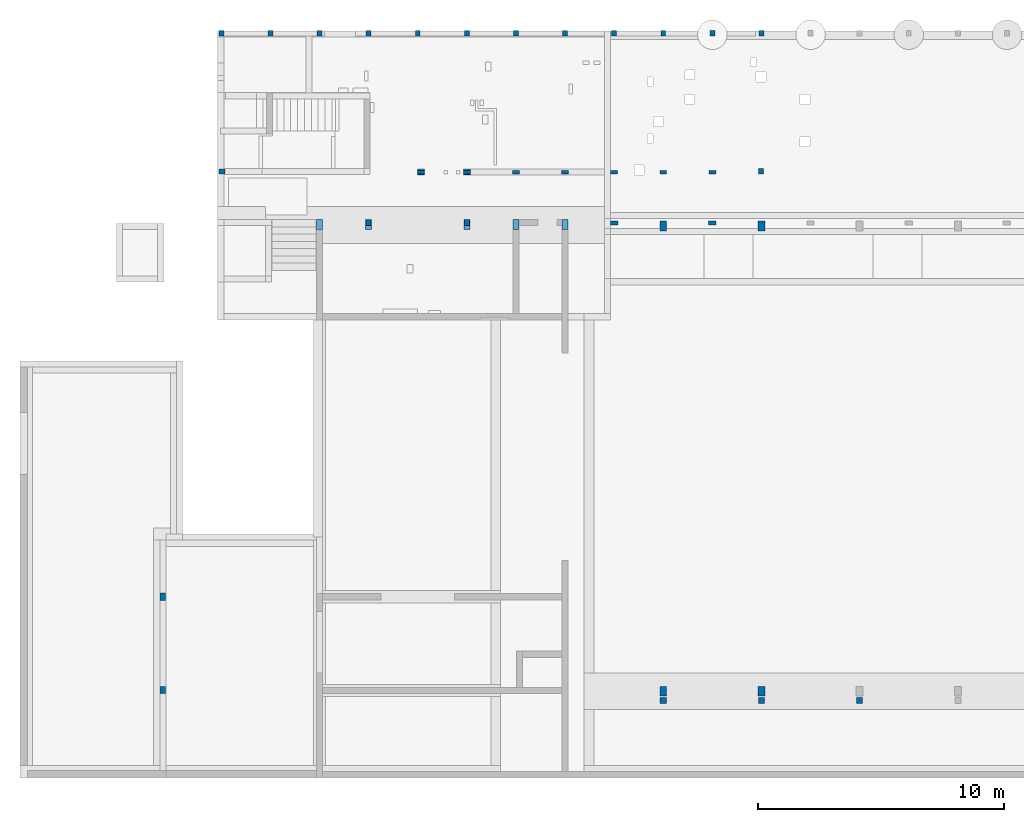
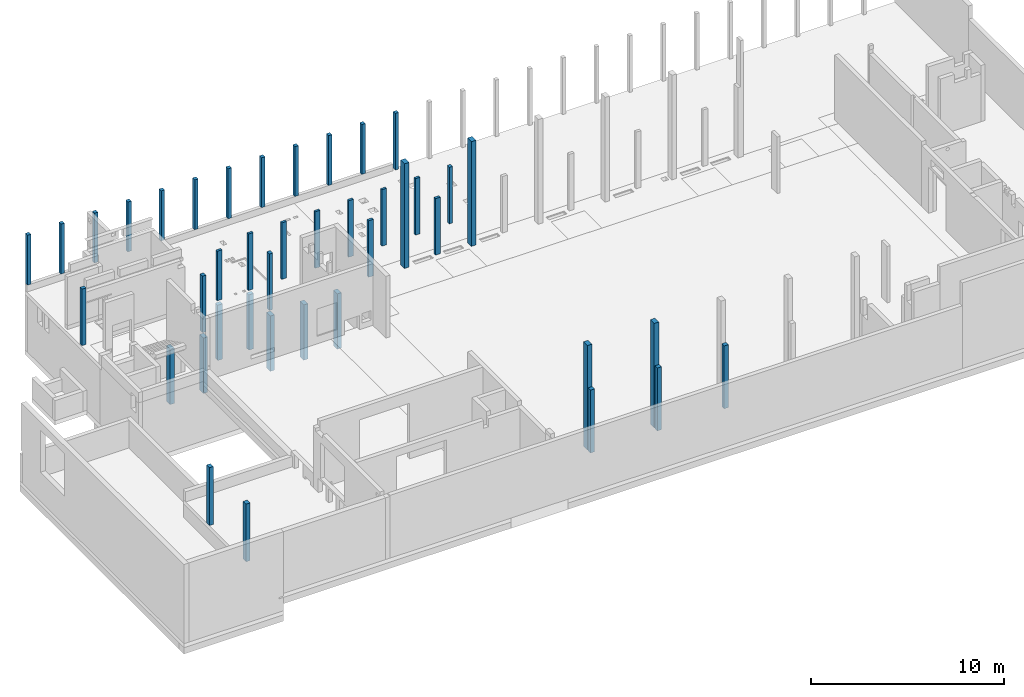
# One storey, part 1 of 12: 41 columns.
"""IFC2X3 building model written with IfcOpenShell, lengths in metres."""

from ifc_helpers import new_model, entity, si_unit, converted_unit, direction, frame, frame_2d, origin, origin_2d_with_axis, place, context, subcontext, project, spatial, rectangle, extrude, source, transform, mapped, material, type_object, type_shapes, element, save


model = new_model("IFC2X3")

# Units and contexts
model_context = context("Model", 3, precision=1e-05, world=frame((30.086303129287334, 2.687674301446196, 462.0)), true_north=direction((0.19008937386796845, 0.9817667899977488)))
body_context = subcontext(model_context, "Body", "Model", "MODEL_VIEW")
ifc_project = project(units=[si_unit("LENGTHUNIT", "METRE"), si_unit("AREAUNIT", "SQUARE_METRE"), converted_unit("PLANEANGLEUNIT", "DEGREE", entity("IfcPlaneAngleMeasure", 0.017453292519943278), si_unit("PLANEANGLEUNIT", "RADIAN"), dimensions=[0, 0, 0, 0, 0, 0, 0]), si_unit("VOLUMEUNIT", "CUBIC_METRE")], contexts=[model_context])

# Site, building, storey
site_placement = place(None, origin())
site = spatial("IfcSite", under=ifc_project, at=site_placement, Name="Default", CompositionType="ELEMENT")
building_placement = place(site_placement, origin())
building = spatial("IfcBuilding", under=site, at=building_placement, CompositionType="ELEMENT")
storey_placement = place(building_placement, frame((0.0, 0.0, -3.800000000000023)))
storey = spatial("IfcBuildingStorey", under=building, at=storey_placement, Name="FB_U01_OKFB", CompositionType="ELEMENT", Elevation=-3.800000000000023)

# Columns
ifc_material_1 = material(Name="WS_CONCRETE_REINFORCED")
column_type_1 = type_object("IfcColumnType", Name="WS_CCL_REC:CCL_REC_250x400", PredefinedType="COLUMN", material=ifc_material_1)
shared_shape_1 = source(origin(), body_context, "Body", "SweptSolid", [
    extrude(rectangle(XDim=0.25000000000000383, YDim=0.4, at=frame_2d((-4.336808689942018e-15, 0.0), x_axis=(1.0, 0.0))), frame((50.10533735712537, -1.3696871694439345, -3.8700000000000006), z_axis=(0.0, 0.0, 1.0), x_axis=(-1.0, 0.0, 0.0)), (0.0, 0.0, 1.0), 3.500000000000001),
])
type_shapes(column_type_1, [shared_shape_1])
column_1_placement = place(storey_placement, frame((0.0, 0.0, 3.800000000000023)))
element("IfcColumn", 1, at=column_1_placement, inside=storey, type_object=column_type_1, material=ifc_material_1, Name="WS_CCL_REC:CCL_REC_250x400", ObjectType="WS_CCL_REC:CCL_REC_250x400", context=body_context, shape_type="MappedRepresentation", body=[
    mapped(shared_shape_1, transform((0.0, 0.0, 0.0), scale=1.0)),
])
column_type_2 = type_object("IfcColumnType", Name="WS_CCL_REC:CCL_REC_250x400", PredefinedType="COLUMN", material=ifc_material_1)
shared_shape_2 = source(origin(), body_context, "Body", "SweptSolid", [
    extrude(rectangle(XDim=0.25000000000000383, YDim=0.4, at=frame_2d((4.336808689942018e-15, 0.0), x_axis=(1.0, 0.0))), frame((52.105337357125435, -1.3696871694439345, -3.8700000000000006), z_axis=(0.0, 0.0, 1.0), x_axis=(-1.0, 0.0, 0.0)), (0.0, 0.0, 1.0), 3.500000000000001),
])
type_shapes(column_type_2, [shared_shape_2])
column_2_placement = place(storey_placement, frame((0.0, 0.0, 3.800000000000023)))
element("IfcColumn", 2, at=column_2_placement, inside=storey, type_object=column_type_2, material=ifc_material_1, Name="WS_CCL_REC:CCL_REC_250x400", ObjectType="WS_CCL_REC:CCL_REC_250x400", context=body_context, shape_type="MappedRepresentation", body=[
    mapped(shared_shape_2, transform((0.0, 0.0, 0.0), scale=1.0)),
])
column_type_3 = type_object("IfcColumnType", Name="WS_CCL_REC:CCL_REC_250x400", PredefinedType="COLUMN", material=ifc_material_1)
shared_shape_3 = source(origin(), body_context, "Body", "SweptSolid", [
    extrude(rectangle(XDim=0.25000000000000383, YDim=0.4, at=frame_2d((-4.336808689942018e-15, 0.0), x_axis=(1.0, 0.0))), frame((56.1053373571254, -1.3696871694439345, -3.8700000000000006), z_axis=(0.0, 0.0, 1.0), x_axis=(-1.0, 0.0, 0.0)), (0.0, 0.0, 1.0), 3.500000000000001),
])
type_shapes(column_type_3, [shared_shape_3])
column_3_placement = place(storey_placement, frame((0.0, 0.0, 3.800000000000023)))
element("IfcColumn", 3, at=column_3_placement, inside=storey, type_object=column_type_3, material=ifc_material_1, Name="WS_CCL_REC:CCL_REC_250x400", ObjectType="WS_CCL_REC:CCL_REC_250x400", context=body_context, shape_type="MappedRepresentation", body=[
    mapped(shared_shape_3, transform((0.0, 0.0, 0.0), scale=1.0)),
])
column_type_4 = type_object("IfcColumnType", Name="WS_CCL_REC:CCL_REC_250x400", PredefinedType="COLUMN", material=ifc_material_1)
shared_shape_4 = source(origin(), body_context, "Body", "SweptSolid", [
    extrude(rectangle(XDim=0.25000000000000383, YDim=0.4, at=frame_2d((4.336808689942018e-15, 0.0), x_axis=(1.0, 0.0))), frame((60.105337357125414, -1.3696478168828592, -3.8700000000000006), z_axis=(0.0, 0.0, 1.0), x_axis=(-1.0, 0.0, 0.0)), (0.0, 0.0, 1.0), 3.500000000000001),
])
type_shapes(column_type_4, [shared_shape_4])
column_4_placement = place(storey_placement, frame((0.0, 0.0, 3.800000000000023)))
element("IfcColumn", 4, at=column_4_placement, inside=storey, type_object=column_type_4, material=ifc_material_1, Name="WS_CCL_REC:CCL_REC_250x400", ObjectType="WS_CCL_REC:CCL_REC_250x400", context=body_context, shape_type="MappedRepresentation", body=[
    mapped(shared_shape_4, transform((0.0, 0.0, 0.0), scale=1.0)),
])
column_type_5 = type_object("IfcColumnType", Name="WS_CCL_REC:CCL_REC_240x280", PredefinedType="COLUMN", material=ifc_material_1)
shared_shape_5 = source(origin(), body_context, "Body", "SweptSolid", [
    extrude(rectangle(XDim=0.23999999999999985, YDim=0.279999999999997, at=frame_2d((6.938893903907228e-17, 4.3298697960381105e-15), x_axis=(1.0, 0.0))), frame((54.24533927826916, 0.7603515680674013, -3.8700000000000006), z_axis=(0.0, 0.0, 1.0), x_axis=(0.0, 1.0, 0.0)), (0.0, 0.0, 1.0), 3.500000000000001),
])
type_shapes(column_type_5, [shared_shape_5])
column_5_placement = place(storey_placement, frame((0.0, 0.0, 3.800000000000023)))
element("IfcColumn", 5, at=column_5_placement, inside=storey, type_object=column_type_5, material=ifc_material_1, Name="WS_CCL_REC:CCL_REC_240x280", ObjectType="WS_CCL_REC:CCL_REC_240x280", context=body_context, shape_type="MappedRepresentation", body=[
    mapped(shared_shape_5, transform((0.0, 0.0, 0.0), scale=1.0)),
])
column_type_6 = type_object("IfcColumnType", Name="WS_CCL_REC:CCL_REC_240x280", PredefinedType="COLUMN", material=ifc_material_1)
shared_shape_6 = source(origin(), body_context, "Body", "SweptSolid", [
    extrude(rectangle(XDim=0.23999999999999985, YDim=0.279999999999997, at=frame_2d((6.938893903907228e-17, -4.3298697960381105e-15), x_axis=(1.0, 0.0))), frame((56.10533781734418, 0.7603515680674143, -3.8700000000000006), z_axis=(0.0, 0.0, 1.0), x_axis=(0.0, 1.0, 0.0)), (0.0, 0.0, 1.0), 3.500000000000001),
])
type_shapes(column_type_6, [shared_shape_6])
column_6_placement = place(storey_placement, frame((0.0, 0.0, 3.800000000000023)))
element("IfcColumn", 6, at=column_6_placement, inside=storey, type_object=column_type_6, material=ifc_material_1, Name="WS_CCL_REC:CCL_REC_240x280", ObjectType="WS_CCL_REC:CCL_REC_240x280", context=body_context, shape_type="MappedRepresentation", body=[
    mapped(shared_shape_6, transform((0.0, 0.0, 0.0), scale=1.0)),
])
column_type_7 = type_object("IfcColumnType", Name="WS_CCL_REC:CCL_REC_250x250", PredefinedType="COLUMN", material=ifc_material_1)
shared_shape_7 = source(origin(), body_context, "Body", "SweptSolid", [
    extrude(rectangle(XDim=0.25000000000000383, YDim=0.2499999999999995, at=frame_2d((-4.336808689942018e-15, -2.1718737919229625e-15), x_axis=(1.0, 0.0))), frame((72.10533735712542, -20.764559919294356, -0.12), z_axis=(0.0, 0.0, 1.0), x_axis=(-1.0, 0.0, 0.0)), (0.0, 0.0, 1.0), 3.969999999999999),
])
type_shapes(column_type_7, [shared_shape_7])
column_7_placement = place(storey_placement, frame((0.0, 0.0, 3.800000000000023)))
element("IfcColumn", 7, at=column_7_placement, inside=storey, type_object=column_type_7, material=ifc_material_1, Name="WS_CCL_REC:CCL_REC_250x250", ObjectType="WS_CCL_REC:CCL_REC_250x250", context=body_context, shape_type="MappedRepresentation", body=[
    mapped(shared_shape_7, transform((0.0, 0.0, 0.0), scale=1.0)),
])
column_type_8 = type_object("IfcColumnType", Name="WS_CCL_REC:CCL_REC_250x250", PredefinedType="COLUMN", material=ifc_material_1)
shared_shape_8 = source(origin(), body_context, "Body", "SweptSolid", [
    extrude(rectangle(XDim=0.25000000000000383, YDim=0.2499999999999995, at=frame_2d((-4.336808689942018e-15, 2.1718737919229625e-15), x_axis=(1.0, 0.0))), frame((68.10533735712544, -20.76455991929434, -0.12), z_axis=(0.0, 0.0, 1.0), x_axis=(-1.0, 0.0, 0.0)), (0.0, 0.0, 1.0), 3.969999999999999),
])
type_shapes(column_type_8, [shared_shape_8])
column_8_placement = place(storey_placement, frame((0.0, 0.0, 3.800000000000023)))
element("IfcColumn", 8, at=column_8_placement, inside=storey, type_object=column_type_8, material=ifc_material_1, Name="WS_CCL_REC:CCL_REC_250x250", ObjectType="WS_CCL_REC:CCL_REC_250x250", context=body_context, shape_type="MappedRepresentation", body=[
    mapped(shared_shape_8, transform((0.0, 0.0, 0.0), scale=1.0)),
])
column_type_9 = type_object("IfcColumnType", Name="WS_CCL_REC:CCL_REC_250x250", PredefinedType="COLUMN", material=ifc_material_1)
shared_shape_9 = source(origin(), body_context, "Body", "SweptSolid", [
    extrude(rectangle(XDim=0.25000000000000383, YDim=0.2499999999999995, at=frame_2d((4.336808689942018e-15, -2.1718737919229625e-15), x_axis=(1.0, 0.0))), frame((64.10533735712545, -20.76455991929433, -0.12), z_axis=(0.0, 0.0, 1.0), x_axis=(-1.0, 0.0, 0.0)), (0.0, 0.0, 1.0), 3.969999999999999),
])
type_shapes(column_type_9, [shared_shape_9])
column_9_placement = place(storey_placement, frame((0.0, 0.0, 3.800000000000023)))
element("IfcColumn", 9, at=column_9_placement, inside=storey, type_object=column_type_9, material=ifc_material_1, Name="WS_CCL_REC:CCL_REC_250x250", ObjectType="WS_CCL_REC:CCL_REC_250x250", context=body_context, shape_type="MappedRepresentation", body=[
    mapped(shared_shape_9, transform((0.0, 0.0, 0.0), scale=1.0)),
])
column_type_10 = type_object("IfcColumnType", Name="WS_CCL_REC:CCL_REC_240x300", PredefinedType="COLUMN", material=ifc_material_1)
shared_shape_10 = source(origin(), body_context, "Body", "SweptSolid", [
    extrude(rectangle(XDim=0.2399999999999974, YDim=0.29999999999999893, at=frame_2d((0.0, 1.0824674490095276e-15), x_axis=(1.0, 0.0))), frame((43.72130499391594, -16.534648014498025, -0.12), z_axis=(0.0, 0.0, 1.0), x_axis=(-1.0, 0.0, 0.0)), (0.0, 0.0, 1.0), 3.655),
])
type_shapes(column_type_10, [shared_shape_10])
column_10_placement = place(storey_placement, frame((0.0, 0.0, 3.800000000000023)))
element("IfcColumn", 10, at=column_10_placement, inside=storey, type_object=column_type_10, material=ifc_material_1, Name="WS_CCL_REC:CCL_REC_240x300", ObjectType="WS_CCL_REC:CCL_REC_240x300", context=body_context, shape_type="MappedRepresentation", body=[
    mapped(shared_shape_10, transform((0.0, 0.0, 0.0), scale=1.0)),
])
column_type_11 = type_object("IfcColumnType", Name="WS_CCL_REC:CCL_REC_240x300", PredefinedType="COLUMN", material=ifc_material_1)
shared_shape_11 = source(origin(), body_context, "Body", "SweptSolid", [
    extrude(rectangle(XDim=0.2399999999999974, YDim=0.3000000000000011, at=origin_2d_with_axis()), frame((43.72130525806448, -20.334648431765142, -0.12), z_axis=(0.0, 0.0, 1.0), x_axis=(-1.0, 0.0, 0.0)), (0.0, 0.0, 1.0), 3.655),
])
type_shapes(column_type_11, [shared_shape_11])
column_11_placement = place(storey_placement, frame((0.0, 0.0, 3.800000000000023)))
element("IfcColumn", 11, at=column_11_placement, inside=storey, type_object=column_type_11, material=ifc_material_1, Name="WS_CCL_REC:CCL_REC_240x300", ObjectType="WS_CCL_REC:CCL_REC_240x300", context=body_context, shape_type="MappedRepresentation", body=[
    mapped(shared_shape_11, transform((0.0, 0.0, 0.0), scale=1.0)),
])
column_type_12 = type_object("IfcColumnType", Name="WS_CCL_REC:CCL_REC_200x250", PredefinedType="COLUMN", material=ifc_material_1)
shared_shape_12 = source(origin(), body_context, "Body", "SweptSolid", [
    extrude(rectangle(XDim=0.19999999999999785, YDim=0.25, at=frame_2d((-4.3298697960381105e-15, 0.0), x_axis=(1.0, 0.0))), frame((56.10533921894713, -1.2946477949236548, -0.12), z_axis=(0.0, 0.0, 1.0), x_axis=(-1.0, 0.0, 0.0)), (0.0, 0.0, 1.0), 3.5749999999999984),
])
type_shapes(column_type_12, [shared_shape_12])
column_12_placement = place(storey_placement, frame((0.0, 0.0, 3.800000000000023)))
element("IfcColumn", 12, at=column_12_placement, inside=storey, type_object=column_type_12, material=ifc_material_1, Name="WS_CCL_REC:CCL_REC_200x250", ObjectType="WS_CCL_REC:CCL_REC_200x250", context=body_context, shape_type="MappedRepresentation", body=[
    mapped(shared_shape_12, transform((0.0, 0.0, 0.0), scale=1.0)),
])
column_type_13 = type_object("IfcColumnType", Name="WS_CCL_REC:CCL_REC_200x250", PredefinedType="COLUMN", material=ifc_material_1)
shared_shape_13 = source(origin(), body_context, "Body", "SweptSolid", [
    extrude(rectangle(XDim=0.19999999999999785, YDim=0.25, at=frame_2d((-4.3298697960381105e-15, 0.0), x_axis=(1.0, 0.0))), frame((52.105337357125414, -1.2946478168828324, -0.12), z_axis=(0.0, 0.0, 1.0), x_axis=(-1.0, 0.0, 0.0)), (0.0, 0.0, 1.0), 3.5749999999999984),
])
type_shapes(column_type_13, [shared_shape_13])
column_13_placement = place(storey_placement, frame((0.0, 0.0, 3.800000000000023)))
element("IfcColumn", 13, at=column_13_placement, inside=storey, type_object=column_type_13, material=ifc_material_1, Name="WS_CCL_REC:CCL_REC_200x250", ObjectType="WS_CCL_REC:CCL_REC_200x250", context=body_context, shape_type="MappedRepresentation", body=[
    mapped(shared_shape_13, transform((0.0, 0.0, 0.0), scale=1.0)),
])
ifc_material_2 = material(Name="WS_TIMBER_GLT_0°")
column_type_14 = type_object("IfcColumnType", Name="WS_TCL_GLT:TCL_GLT_200x220", PredefinedType="COLUMN", material=ifc_material_2)
shared_shape_14 = source(origin(), body_context, "Body", "SweptSolid", [
    extrude(rectangle(XDim=0.19999999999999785, YDim=0.2199999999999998, at=frame_2d((4.3298697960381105e-15, 0.0), x_axis=(1.0, 0.0))), frame((62.105339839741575, 6.420351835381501, 0.29999999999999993), z_axis=(0.0, 0.0, 1.0), x_axis=(-1.0, 0.0, 0.0)), (0.0, 0.0, 1.0), 3.154999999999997),
])
type_shapes(column_type_14, [shared_shape_14])
column_14_placement = place(storey_placement, frame((0.0, 0.0, 3.800000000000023)))
element("IfcColumn", 14, at=column_14_placement, inside=storey, type_object=column_type_14, material=ifc_material_2, Name="WS_TCL_GLT:TCL_GLT_200x220", ObjectType="WS_TCL_GLT:TCL_GLT_200x220", context=body_context, shape_type="MappedRepresentation", body=[
    mapped(shared_shape_14, transform((0.0, 0.0, 0.0), scale=1.0)),
])
column_type_15 = type_object("IfcColumnType", Name="WS_TCL_GLT:TCL_GLT_200x220", PredefinedType="COLUMN", material=ifc_material_2)
shared_shape_15 = source(origin(), body_context, "Body", "SweptSolid", [
    extrude(rectangle(XDim=0.19999999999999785, YDim=0.2199999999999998, at=frame_2d((4.3298697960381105e-15, 0.0), x_axis=(1.0, 0.0))), frame((60.105338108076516, 6.420351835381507, 0.29999999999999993), z_axis=(0.0, 0.0, 1.0), x_axis=(-1.0, 0.0, 0.0)), (0.0, 0.0, 1.0), 3.154999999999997),
])
type_shapes(column_type_15, [shared_shape_15])
column_15_placement = place(storey_placement, frame((0.0, 0.0, 3.800000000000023)))
element("IfcColumn", 15, at=column_15_placement, inside=storey, type_object=column_type_15, material=ifc_material_2, Name="WS_TCL_GLT:TCL_GLT_200x220", ObjectType="WS_TCL_GLT:TCL_GLT_200x220", context=body_context, shape_type="MappedRepresentation", body=[
    mapped(shared_shape_15, transform((0.0, 0.0, 0.0), scale=1.0)),
])
column_type_16 = type_object("IfcColumnType", Name="WS_TCL_GLT:TCL_GLT_200x220", PredefinedType="COLUMN", material=ifc_material_2)
shared_shape_16 = source(origin(), body_context, "Body", "SweptSolid", [
    extrude(rectangle(XDim=0.19999999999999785, YDim=0.2199999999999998, at=frame_2d((4.3298697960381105e-15, 0.0), x_axis=(1.0, 0.0))), frame((58.10534021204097, 6.420351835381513, 0.29999999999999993), z_axis=(0.0, 0.0, 1.0), x_axis=(-1.0, 0.0, 0.0)), (0.0, 0.0, 1.0), 3.154999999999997),
])
type_shapes(column_type_16, [shared_shape_16])
column_16_placement = place(storey_placement, frame((0.0, 0.0, 3.800000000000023)))
element("IfcColumn", 16, at=column_16_placement, inside=storey, type_object=column_type_16, material=ifc_material_2, Name="WS_TCL_GLT:TCL_GLT_200x220", ObjectType="WS_TCL_GLT:TCL_GLT_200x220", context=body_context, shape_type="MappedRepresentation", body=[
    mapped(shared_shape_16, transform((0.0, 0.0, 0.0), scale=1.0)),
])
column_type_17 = type_object("IfcColumnType", Name="WS_TCL_GLT:TCL_GLT_200x220", PredefinedType="COLUMN", material=ifc_material_2)
shared_shape_17 = source(origin(), body_context, "Body", "SweptSolid", [
    extrude(rectangle(XDim=0.19999999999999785, YDim=0.2199999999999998, at=frame_2d((4.3298697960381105e-15, 0.0), x_axis=(1.0, 0.0))), frame((56.1053381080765, 6.4203518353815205, 0.29999999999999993), z_axis=(0.0, 0.0, 1.0), x_axis=(-1.0, 0.0, 0.0)), (0.0, 0.0, 1.0), 3.154999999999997),
])
type_shapes(column_type_17, [shared_shape_17])
column_17_placement = place(storey_placement, frame((0.0, 0.0, 3.800000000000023)))
element("IfcColumn", 17, at=column_17_placement, inside=storey, type_object=column_type_17, material=ifc_material_2, Name="WS_TCL_GLT:TCL_GLT_200x220", ObjectType="WS_TCL_GLT:TCL_GLT_200x220", context=body_context, shape_type="MappedRepresentation", body=[
    mapped(shared_shape_17, transform((0.0, 0.0, 0.0), scale=1.0)),
])
column_type_18 = type_object("IfcColumnType", Name="WS_TCL_GLT:TCL_GLT_200x220", PredefinedType="COLUMN", material=ifc_material_2)
shared_shape_18 = source(origin(), body_context, "Body", "SweptSolid", [
    extrude(rectangle(XDim=0.19999999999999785, YDim=0.2199999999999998, at=frame_2d((-4.3298697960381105e-15, 0.0), x_axis=(1.0, 0.0))), frame((54.10534058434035, 6.420351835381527, 0.29999999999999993), z_axis=(0.0, 0.0, 1.0), x_axis=(-1.0, 0.0, 0.0)), (0.0, 0.0, 1.0), 3.154999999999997),
])
type_shapes(column_type_18, [shared_shape_18])
column_18_placement = place(storey_placement, frame((0.0, 0.0, 3.800000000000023)))
element("IfcColumn", 18, at=column_18_placement, inside=storey, type_object=column_type_18, material=ifc_material_2, Name="WS_TCL_GLT:TCL_GLT_200x220", ObjectType="WS_TCL_GLT:TCL_GLT_200x220", context=body_context, shape_type="MappedRepresentation", body=[
    mapped(shared_shape_18, transform((0.0, 0.0, 0.0), scale=1.0)),
])
column_type_19 = type_object("IfcColumnType", Name="WS_TCL_GLT:TCL_GLT_200x220", PredefinedType="COLUMN", material=ifc_material_2)
shared_shape_19 = source(origin(), body_context, "Body", "SweptSolid", [
    extrude(rectangle(XDim=0.19999999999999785, YDim=0.2199999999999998, at=frame_2d((4.3298697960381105e-15, 0.0), x_axis=(1.0, 0.0))), frame((52.10533810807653, 6.420351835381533, 0.29999999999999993), z_axis=(0.0, 0.0, 1.0), x_axis=(-1.0, 0.0, 0.0)), (0.0, 0.0, 1.0), 3.154999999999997),
])
type_shapes(column_type_19, [shared_shape_19])
column_19_placement = place(storey_placement, frame((0.0, 0.0, 3.800000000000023)))
element("IfcColumn", 19, at=column_19_placement, inside=storey, type_object=column_type_19, material=ifc_material_2, Name="WS_TCL_GLT:TCL_GLT_200x220", ObjectType="WS_TCL_GLT:TCL_GLT_200x220", context=body_context, shape_type="MappedRepresentation", body=[
    mapped(shared_shape_19, transform((0.0, 0.0, 0.0), scale=1.0)),
])
column_type_20 = type_object("IfcColumnType", Name="WS_TCL_GLT:TCL_GLT_200x220", PredefinedType="COLUMN", material=ifc_material_2)
shared_shape_20 = source(origin(), body_context, "Body", "SweptSolid", [
    extrude(rectangle(XDim=0.19999999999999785, YDim=0.2199999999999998, at=frame_2d((-4.3298697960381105e-15, 0.0), x_axis=(1.0, 0.0))), frame((50.105338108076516, 6.42035183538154, 0.29999999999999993), z_axis=(0.0, 0.0, 1.0), x_axis=(-1.0, 0.0, 0.0)), (0.0, 0.0, 1.0), 3.154999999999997),
])
type_shapes(column_type_20, [shared_shape_20])
column_20_placement = place(storey_placement, frame((0.0, 0.0, 3.800000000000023)))
element("IfcColumn", 20, at=column_20_placement, inside=storey, type_object=column_type_20, material=ifc_material_2, Name="WS_TCL_GLT:TCL_GLT_200x220", ObjectType="WS_TCL_GLT:TCL_GLT_200x220", context=body_context, shape_type="MappedRepresentation", body=[
    mapped(shared_shape_20, transform((0.0, 0.0, 0.0), scale=1.0)),
])
column_type_21 = type_object("IfcColumnType", Name="WS_TCL_GLT:TCL_GLT_200x220", PredefinedType="COLUMN", material=ifc_material_2)
shared_shape_21 = source(origin(), body_context, "Body", "SweptSolid", [
    extrude(rectangle(XDim=0.2199999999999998, YDim=0.19999999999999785, at=origin_2d_with_axis()), frame((48.10533975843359, 6.420351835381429, 0.29999999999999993), z_axis=(0.0, 0.0, 1.0), x_axis=(0.0, -1.0, 0.0)), (0.0, 0.0, 1.0), 3.1549999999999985),
])
type_shapes(column_type_21, [shared_shape_21])
column_21_placement = place(storey_placement, frame((0.0, 0.0, 3.800000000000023)))
element("IfcColumn", 21, at=column_21_placement, inside=storey, type_object=column_type_21, material=ifc_material_2, Name="WS_TCL_GLT:TCL_GLT_200x220", ObjectType="WS_TCL_GLT:TCL_GLT_200x220", context=body_context, shape_type="MappedRepresentation", body=[
    mapped(shared_shape_21, transform((0.0, 0.0, 0.0), scale=1.0)),
])
column_type_22 = type_object("IfcColumnType", Name="WS_TCL_GLT:TCL_GLT_200x220", PredefinedType="COLUMN", material=ifc_material_2)
shared_shape_22 = source(origin(), body_context, "Body", "SweptSolid", [
    extrude(rectangle(XDim=0.19999999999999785, YDim=0.2199999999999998, at=frame_2d((-4.3298697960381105e-15, 0.0), x_axis=(1.0, 0.0))), frame((46.10533996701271, 6.4203518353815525, 0.29999999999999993), z_axis=(0.0, 0.0, 1.0), x_axis=(-1.0, 0.0, 0.0)), (0.0, 0.0, 1.0), 3.154999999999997),
])
type_shapes(column_type_22, [shared_shape_22])
column_22_placement = place(storey_placement, frame((0.0, 0.0, 3.800000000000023)))
element("IfcColumn", 22, at=column_22_placement, inside=storey, type_object=column_type_22, material=ifc_material_2, Name="WS_TCL_GLT:TCL_GLT_200x220", ObjectType="WS_TCL_GLT:TCL_GLT_200x220", context=body_context, shape_type="MappedRepresentation", body=[
    mapped(shared_shape_22, transform((0.0, 0.0, 0.0), scale=1.0)),
])
ifc_material_3 = material(Name="WS_TIMBER_GLT_90°")
column_type_23 = type_object("IfcColumnType", Name="WS_TCL_GLT:TCL_GLT_140x280", PredefinedType="COLUMN", material=ifc_material_3)
shared_shape_23 = source(origin(), body_context, "Body", "SweptSolid", [
    extrude(rectangle(XDim=0.13999999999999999, YDim=0.279999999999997, at=frame_2d((6.938893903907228e-17, 4.3298697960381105e-15), x_axis=(1.0, 0.0))), frame((58.1053392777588, 0.7603515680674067, -0.12), z_axis=(0.0, 0.0, 1.0), x_axis=(0.0, -1.0, 0.0)), (0.0, 0.0, 1.0), 3.5749999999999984),
])
type_shapes(column_type_23, [shared_shape_23])
column_23_placement = place(storey_placement, frame((0.0, 0.0, 3.800000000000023)))
element("IfcColumn", 23, at=column_23_placement, inside=storey, type_object=column_type_23, material=ifc_material_3, Name="WS_TCL_GLT:TCL_GLT_140x280", ObjectType="WS_TCL_GLT:TCL_GLT_140x280", context=body_context, shape_type="MappedRepresentation", body=[
    mapped(shared_shape_23, transform((0.0, 0.0, 0.0), scale=1.0)),
])
column_type_24 = type_object("IfcColumnType", Name="WS_TCL_GLT:TCL_GLT_140x280", PredefinedType="COLUMN", material=ifc_material_3)
shared_shape_24 = source(origin(), body_context, "Body", "SweptSolid", [
    extrude(rectangle(XDim=0.14000000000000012, YDim=0.279999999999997, at=frame_2d((6.938893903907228e-17, 0.0), x_axis=(1.0, 0.0))), frame((56.10533717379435, 0.7603515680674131, -0.12), z_axis=(0.0, 0.0, 1.0), x_axis=(0.0, -1.0, 0.0)), (0.0, 0.0, 1.0), 3.5749999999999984),
])
type_shapes(column_type_24, [shared_shape_24])
column_24_placement = place(storey_placement, frame((0.0, 0.0, 3.800000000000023)))
element("IfcColumn", 24, at=column_24_placement, inside=storey, type_object=column_type_24, material=ifc_material_3, Name="WS_TCL_GLT:TCL_GLT_140x280", ObjectType="WS_TCL_GLT:TCL_GLT_140x280", context=body_context, shape_type="MappedRepresentation", body=[
    mapped(shared_shape_24, transform((0.0, 0.0, 0.0), scale=1.0)),
])
column_type_25 = type_object("IfcColumnType", Name="WS_TCL_GLT:TCL_GLT_140x280", PredefinedType="COLUMN", material=ifc_material_3)
shared_shape_25 = source(origin(), body_context, "Body", "SweptSolid", [
    extrude(rectangle(XDim=0.14000000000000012, YDim=0.279999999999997, at=frame_2d((6.938893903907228e-17, 0.0), x_axis=(1.0, 0.0))), frame((54.24533927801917, 0.7603515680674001, -0.12), z_axis=(0.0, 0.0, 1.0), x_axis=(0.0, -1.0, 0.0)), (0.0, 0.0, 1.0), 3.1349999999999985),
])
type_shapes(column_type_25, [shared_shape_25])
column_25_placement = place(storey_placement, frame((0.0, 0.0, 3.800000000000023)))
element("IfcColumn", 25, at=column_25_placement, inside=storey, type_object=column_type_25, material=ifc_material_3, Name="WS_TCL_GLT:TCL_GLT_140x280", ObjectType="WS_TCL_GLT:TCL_GLT_140x280", context=body_context, shape_type="MappedRepresentation", body=[
    mapped(shared_shape_25, transform((0.0, 0.0, 0.0), scale=1.0)),
])
column_type_26 = type_object("IfcColumnType", Name="WS_TCL_GLT:TCL_GLT_140x280", PredefinedType="COLUMN", material=ifc_material_3)
shared_shape_26 = source(origin(), body_context, "Body", "SweptSolid", [
    extrude(rectangle(XDim=0.14000000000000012, YDim=0.279999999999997, at=frame_2d((6.938893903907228e-17, 0.0), x_axis=(1.0, 0.0))), frame((62.10533890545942, 0.7603515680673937, -0.12), z_axis=(0.0, 0.0, 1.0), x_axis=(0.0, -1.0, 0.0)), (0.0, 0.0, 1.0), 3.5749999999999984),
])
type_shapes(column_type_26, [shared_shape_26])
column_26_placement = place(storey_placement, frame((0.0, 0.0, 3.800000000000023)))
element("IfcColumn", 26, at=column_26_placement, inside=storey, type_object=column_type_26, material=ifc_material_3, Name="WS_TCL_GLT:TCL_GLT_140x280", ObjectType="WS_TCL_GLT:TCL_GLT_140x280", context=body_context, shape_type="MappedRepresentation", body=[
    mapped(shared_shape_26, transform((0.0, 0.0, 0.0), scale=1.0)),
])
column_type_27 = type_object("IfcColumnType", Name="WS_TCL_GLT:TCL_GLT_140x280", PredefinedType="COLUMN", material=ifc_material_3)
shared_shape_27 = source(origin(), body_context, "Body", "SweptSolid", [
    extrude(rectangle(XDim=0.14000000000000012, YDim=0.279999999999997, at=frame_2d((6.938893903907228e-17, 0.0), x_axis=(1.0, 0.0))), frame((64.10533717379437, 0.7603515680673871, -0.12), z_axis=(0.0, 0.0, 1.0), x_axis=(0.0, -1.0, 0.0)), (0.0, 0.0, 1.0), 3.5749999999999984),
])
type_shapes(column_type_27, [shared_shape_27])
column_27_placement = place(storey_placement, frame((0.0, 0.0, 3.800000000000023)))
element("IfcColumn", 27, at=column_27_placement, inside=storey, type_object=column_type_27, material=ifc_material_3, Name="WS_TCL_GLT:TCL_GLT_140x280", ObjectType="WS_TCL_GLT:TCL_GLT_140x280", context=body_context, shape_type="MappedRepresentation", body=[
    mapped(shared_shape_27, transform((0.0, 0.0, 0.0), scale=1.0)),
])
column_type_28 = type_object("IfcColumnType", Name="WS_TCL_GLT:TCL_GLT_140x280", PredefinedType="COLUMN", material=ifc_material_3)
shared_shape_28 = source(origin(), body_context, "Body", "SweptSolid", [
    extrude(rectangle(XDim=0.14000000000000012, YDim=0.279999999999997, at=frame_2d((6.938893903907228e-17, 0.0), x_axis=(1.0, 0.0))), frame((66.10533853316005, 0.7603515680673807, -0.12), z_axis=(0.0, 0.0, 1.0), x_axis=(0.0, -1.0, 0.0)), (0.0, 0.0, 1.0), 3.5749999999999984),
])
type_shapes(column_type_28, [shared_shape_28])
column_28_placement = place(storey_placement, frame((0.0, 0.0, 3.800000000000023)))
element("IfcColumn", 28, at=column_28_placement, inside=storey, type_object=column_type_28, material=ifc_material_3, Name="WS_TCL_GLT:TCL_GLT_140x280", ObjectType="WS_TCL_GLT:TCL_GLT_140x280", context=body_context, shape_type="MappedRepresentation", body=[
    mapped(shared_shape_28, transform((0.0, 0.0, 0.0), scale=1.0)),
])
column_type_29 = type_object("IfcColumnType", Name="WS_TCL_GLT:TCL_GLT_200x220", PredefinedType="COLUMN", material=ifc_material_2)
shared_shape_29 = source(origin(), body_context, "Body", "SweptSolid", [
    extrude(rectangle(XDim=0.21999999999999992, YDim=0.19999999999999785, at=frame_2d((6.938893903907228e-17, 0.0), x_axis=(1.0, 0.0))), frame((68.09533735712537, 0.8003522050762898, -0.12), z_axis=(0.0, 0.0, 1.0), x_axis=(0.0, -1.0, 0.0)), (0.0, 0.0, 1.0), 3.5749999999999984),
])
type_shapes(column_type_29, [shared_shape_29])
column_29_placement = place(storey_placement, frame((0.0, 0.0, 3.800000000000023)))
element("IfcColumn", 29, at=column_29_placement, inside=storey, type_object=column_type_29, material=ifc_material_2, Name="WS_TCL_GLT:TCL_GLT_200x220", ObjectType="WS_TCL_GLT:TCL_GLT_200x220", context=body_context, shape_type="MappedRepresentation", body=[
    mapped(shared_shape_29, transform((0.0, 0.0, 0.0), scale=1.0)),
])
column_type_30 = type_object("IfcColumnType", Name="WS_TCL_GLT:TCL_GLT_280x400", PredefinedType="COLUMN", material=ifc_material_2)
shared_shape_30 = source(origin(), body_context, "Body", "SweptSolid", [
    extrude(rectangle(XDim=0.4, YDim=0.279999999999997, at=origin_2d_with_axis()), frame((68.10533919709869, -1.4346022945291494, -0.12), z_axis=(0.0, 0.0, 1.0), x_axis=(0.0, -1.0, 0.0)), (0.0, 0.0, 1.0), 6.62),
])
type_shapes(column_type_30, [shared_shape_30])
column_30_placement = place(storey_placement, frame((0.0, 0.0, 3.800000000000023)))
element("IfcColumn", 30, at=column_30_placement, inside=storey, type_object=column_type_30, material=ifc_material_2, Name="WS_TCL_GLT:TCL_GLT_280x400", ObjectType="WS_TCL_GLT:TCL_GLT_280x400", context=body_context, shape_type="MappedRepresentation", body=[
    mapped(shared_shape_30, transform((0.0, 0.0, 0.0), scale=1.0)),
])
column_type_31 = type_object("IfcColumnType", Name="WS_TCL_GLT:TCL_GLT_280x400", PredefinedType="COLUMN", material=ifc_material_2)
shared_shape_31 = source(origin(), body_context, "Body", "SweptSolid", [
    extrude(rectangle(XDim=0.4, YDim=0.279999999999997, at=origin_2d_with_axis()), frame((64.10533919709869, -1.4346022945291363, -0.12), z_axis=(0.0, 0.0, 1.0), x_axis=(0.0, -1.0, 0.0)), (0.0, 0.0, 1.0), 6.62),
])
type_shapes(column_type_31, [shared_shape_31])
column_31_placement = place(storey_placement, frame((0.0, 0.0, 3.800000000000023)))
element("IfcColumn", 31, at=column_31_placement, inside=storey, type_object=column_type_31, material=ifc_material_2, Name="WS_TCL_GLT:TCL_GLT_280x400", ObjectType="WS_TCL_GLT:TCL_GLT_280x400", context=body_context, shape_type="MappedRepresentation", body=[
    mapped(shared_shape_31, transform((0.0, 0.0, 0.0), scale=1.0)),
])
column_type_32 = type_object("IfcColumnType", Name="WS_TCL_GLT:TCL_GLT_280x400", PredefinedType="COLUMN", material=ifc_material_2)
shared_shape_32 = source(origin(), body_context, "Body", "SweptSolid", [
    extrude(rectangle(XDim=0.279999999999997, YDim=0.4, at=frame_2d((-4.3298697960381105e-15, -2.1649348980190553e-15), x_axis=(1.0, 0.0))), frame((68.10533919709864, -20.384651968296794, -0.12), z_axis=(0.0, 0.0, 1.0), x_axis=(-1.0, 0.0, 0.0)), (0.0, 0.0, 1.0), 6.62),
])
type_shapes(column_type_32, [shared_shape_32])
column_32_placement = place(storey_placement, frame((0.0, 0.0, 3.800000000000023)))
element("IfcColumn", 32, at=column_32_placement, inside=storey, type_object=column_type_32, material=ifc_material_2, Name="WS_TCL_GLT:TCL_GLT_280x400", ObjectType="WS_TCL_GLT:TCL_GLT_280x400", context=body_context, shape_type="MappedRepresentation", body=[
    mapped(shared_shape_32, transform((0.0, 0.0, 0.0), scale=1.0)),
])
column_type_33 = type_object("IfcColumnType", Name="WS_TCL_GLT:TCL_GLT_280x400", PredefinedType="COLUMN", material=ifc_material_2)
shared_shape_33 = source(origin(), body_context, "Body", "SweptSolid", [
    extrude(rectangle(XDim=0.279999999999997, YDim=0.4, at=frame_2d((4.3298697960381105e-15, 2.1649348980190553e-15), x_axis=(1.0, 0.0))), frame((64.10533919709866, -20.38465196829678, -0.12), z_axis=(0.0, 0.0, 1.0), x_axis=(-1.0, 0.0, 0.0)), (0.0, 0.0, 1.0), 6.62),
])
type_shapes(column_type_33, [shared_shape_33])
column_33_placement = place(storey_placement, frame((0.0, 0.0, 3.800000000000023)))
element("IfcColumn", 33, at=column_33_placement, inside=storey, type_object=column_type_33, material=ifc_material_2, Name="WS_TCL_GLT:TCL_GLT_280x400", ObjectType="WS_TCL_GLT:TCL_GLT_280x400", context=body_context, shape_type="MappedRepresentation", body=[
    mapped(shared_shape_33, transform((0.0, 0.0, 0.0), scale=1.0)),
])
column_type_34 = type_object("IfcColumnType", Name="WS_TCL_GLT:TCL_GLT_200x220", PredefinedType="COLUMN", material=ifc_material_2)
shared_shape_34 = source(origin(), body_context, "Body", "SweptSolid", [
    extrude(rectangle(XDim=0.19999999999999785, YDim=0.2199999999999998, at=frame_2d((4.3298697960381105e-15, 0.0), x_axis=(1.0, 0.0))), frame((64.1053385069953, 6.420351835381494, 0.29999999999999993), z_axis=(0.0, 0.0, 1.0), x_axis=(-1.0, 0.0, 0.0)), (0.0, 0.0, 1.0), 3.154999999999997),
])
type_shapes(column_type_34, [shared_shape_34])
column_34_placement = place(storey_placement, frame((0.0, 0.0, 3.800000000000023)))
element("IfcColumn", 34, at=column_34_placement, inside=storey, type_object=column_type_34, material=ifc_material_2, Name="WS_TCL_GLT:TCL_GLT_200x220", ObjectType="WS_TCL_GLT:TCL_GLT_200x220", context=body_context, shape_type="MappedRepresentation", body=[
    mapped(shared_shape_34, transform((0.0, 0.0, 0.0), scale=1.0)),
])
column_type_35 = type_object("IfcColumnType", Name="WS_TCL_GLT:TCL_GLT_200x220", PredefinedType="COLUMN", material=ifc_material_2)
shared_shape_35 = source(origin(), body_context, "Body", "SweptSolid", [
    extrude(rectangle(XDim=0.19999999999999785, YDim=0.2199999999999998, at=frame_2d((-4.3298697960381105e-15, 0.0), x_axis=(1.0, 0.0))), frame((68.10533850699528, 6.420351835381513, -0.12), z_axis=(0.0, 0.0, 1.0), x_axis=(-1.0, 0.0, 0.0)), (0.0, 0.0, 1.0), 3.5749999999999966),
])
type_shapes(column_type_35, [shared_shape_35])
column_35_placement = place(storey_placement, frame((0.0, 0.0, 3.800000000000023)))
element("IfcColumn", 35, at=column_35_placement, inside=storey, type_object=column_type_35, material=ifc_material_2, Name="WS_TCL_GLT:TCL_GLT_200x220", ObjectType="WS_TCL_GLT:TCL_GLT_200x220", context=body_context, shape_type="MappedRepresentation", body=[
    mapped(shared_shape_35, transform((0.0, 0.0, 0.0), scale=1.0)),
])
column_type_36 = type_object("IfcColumnType", Name="WS_TCL_GLT:TCL_GLT_200x220", PredefinedType="COLUMN", material=ifc_material_2)
shared_shape_36 = source(origin(), body_context, "Body", "SweptSolid", [
    extrude(rectangle(XDim=0.19999999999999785, YDim=0.2199999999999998, at=frame_2d((4.3298697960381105e-15, 0.0), x_axis=(1.0, 0.0))), frame((66.10533986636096, 6.4203518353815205, 0.29999999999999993), z_axis=(0.0, 0.0, 1.0), x_axis=(-1.0, 0.0, 0.0)), (0.0, 0.0, 1.0), 3.154999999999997),
])
type_shapes(column_type_36, [shared_shape_36])
column_36_placement = place(storey_placement, frame((0.0, 0.0, 3.800000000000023)))
element("IfcColumn", 36, at=column_36_placement, inside=storey, type_object=column_type_36, material=ifc_material_2, Name="WS_TCL_GLT:TCL_GLT_200x220", ObjectType="WS_TCL_GLT:TCL_GLT_200x220", context=body_context, shape_type="MappedRepresentation", body=[
    mapped(shared_shape_36, transform((0.0, 0.0, 0.0), scale=1.0)),
])
column_type_37 = type_object("IfcColumnType", Name="WS_CCL_REC:CCL_REC_250x400", PredefinedType="COLUMN", material=ifc_material_1)
shared_shape_37 = source(origin(), body_context, "Body", "SweptSolid", [
    extrude(rectangle(XDim=0.25000000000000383, YDim=0.4, at=frame_2d((4.336808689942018e-15, 0.0), x_axis=(1.0, 0.0))), frame((58.10534152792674, -1.3696478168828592, -3.8700000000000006), z_axis=(0.0, 0.0, 1.0), x_axis=(-1.0, 0.0, 0.0)), (0.0, 0.0, 1.0), 3.500000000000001),
])
type_shapes(column_type_37, [shared_shape_37])
column_37_placement = place(storey_placement, frame((0.0, 0.0, 3.800000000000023)))
element("IfcColumn", 37, at=column_37_placement, inside=storey, type_object=column_type_37, material=ifc_material_1, Name="WS_CCL_REC:CCL_REC_250x400", ObjectType="WS_CCL_REC:CCL_REC_250x400", context=body_context, shape_type="MappedRepresentation", body=[
    mapped(shared_shape_37, transform((0.0, 0.0, 0.0), scale=1.0)),
])
column_type_38 = type_object("IfcColumnType", Name="WS_TCL_GLT:TCL_GLT_140x280", PredefinedType="COLUMN", material=ifc_material_3)
shared_shape_38 = source(origin(), body_context, "Body", "SweptSolid", [
    extrude(rectangle(XDim=0.13999999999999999, YDim=0.279999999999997, at=frame_2d((6.938893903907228e-17, -4.3298697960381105e-15), x_axis=(1.0, 0.0))), frame((60.10534138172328, 0.7603515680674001, -0.12), z_axis=(0.0, 0.0, 1.0), x_axis=(0.0, -1.0, 0.0)), (0.0, 0.0, 1.0), 3.5749999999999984),
])
type_shapes(column_type_38, [shared_shape_38])
column_38_placement = place(storey_placement, frame((0.0, 0.0, 3.800000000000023)))
element("IfcColumn", 38, at=column_38_placement, inside=storey, type_object=column_type_38, material=ifc_material_3, Name="WS_TCL_GLT:TCL_GLT_140x280", ObjectType="WS_TCL_GLT:TCL_GLT_140x280", context=body_context, shape_type="MappedRepresentation", body=[
    mapped(shared_shape_38, transform((0.0, 0.0, 0.0), scale=1.0)),
])
column_type_39 = type_object("IfcColumnType", Name="WS_TCL_GLT:TCL_GLT_160/300", PredefinedType="COLUMN", material=ifc_material_3)
shared_shape_39 = source(origin(), body_context, "Body", "SweptSolid", [
    extrude(rectangle(XDim=0.15999999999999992, YDim=0.3000000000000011, at=frame_2d((1.3183898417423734e-16, 0.0), x_axis=(1.0, 0.0))), frame((66.10533842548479, -1.3146022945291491, -0.12), z_axis=(0.0, 0.0, 1.0), x_axis=(0.0, -1.0, 0.0)), (0.0, 0.0, 1.0), 3.5749999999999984),
])
type_shapes(column_type_39, [shared_shape_39])
column_39_placement = place(storey_placement, frame((0.0, 0.0, 3.800000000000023)))
element("IfcColumn", 39, at=column_39_placement, inside=storey, type_object=column_type_39, material=ifc_material_3, Name="WS_TCL_GLT:TCL_GLT_160/300", ObjectType="WS_TCL_GLT:TCL_GLT_160/300", context=body_context, shape_type="MappedRepresentation", body=[
    mapped(shared_shape_39, transform((0.0, 0.0, 0.0), scale=1.0)),
])
column_type_40 = type_object("IfcColumnType", Name="WS_TCL_GLT:TCL_GLT_160/300", PredefinedType="COLUMN", material=ifc_material_3)
shared_shape_40 = source(origin(), body_context, "Body", "SweptSolid", [
    extrude(rectangle(XDim=0.15999999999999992, YDim=0.3000000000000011, at=frame_2d((1.3183898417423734e-16, 0.0), x_axis=(1.0, 0.0))), frame((62.10533839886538, -1.314602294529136, -0.12), z_axis=(0.0, 0.0, 1.0), x_axis=(0.0, -1.0, 0.0)), (0.0, 0.0, 1.0), 3.5749999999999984),
])
type_shapes(column_type_40, [shared_shape_40])
column_40_placement = place(storey_placement, frame((0.0, 0.0, 3.800000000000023)))
element("IfcColumn", 40, at=column_40_placement, inside=storey, type_object=column_type_40, material=ifc_material_3, Name="WS_TCL_GLT:TCL_GLT_160/300", ObjectType="WS_TCL_GLT:TCL_GLT_160/300", context=body_context, shape_type="MappedRepresentation", body=[
    mapped(shared_shape_40, transform((0.0, 0.0, 0.0), scale=1.0)),
])
column_type_41 = type_object("IfcColumnType", Name="WS_TCL_GLT:TCL_GLT_200x240", PredefinedType="COLUMN", material=ifc_material_2)
shared_shape_41 = source(origin(), body_context, "Body", "SweptSolid", [
    extrude(rectangle(XDim=0.2, YDim=0.2399999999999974, at=origin_2d_with_axis()), frame((46.12543860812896, 0.7853516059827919, -0.12), z_axis=(0.0, 0.0, 1.0), x_axis=(0.0, -1.0, 0.0)), (0.0, 0.0, 1.0), 3.5749999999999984),
])
type_shapes(column_type_41, [shared_shape_41])
column_41_placement = place(storey_placement, frame((0.0, 0.0, 3.800000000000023)))
element("IfcColumn", 41, at=column_41_placement, inside=storey, type_object=column_type_41, material=ifc_material_2, Name="WS_TCL_GLT:TCL_GLT_200x240", ObjectType="WS_TCL_GLT:TCL_GLT_200x240", context=body_context, shape_type="MappedRepresentation", body=[
    mapped(shared_shape_41, transform((0.0, 0.0, 0.0), scale=1.0)),
])

save(model, "model.ifc")
